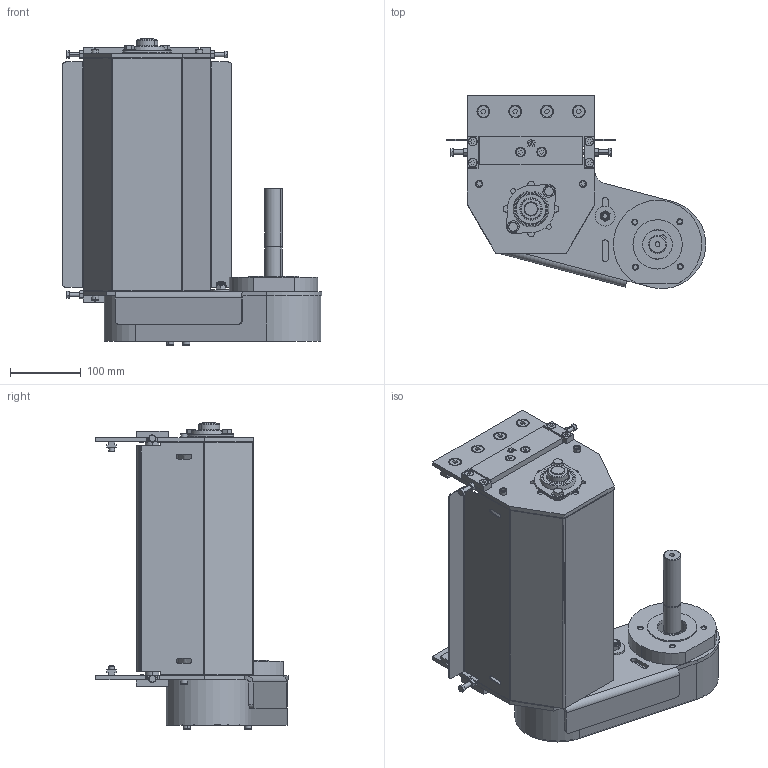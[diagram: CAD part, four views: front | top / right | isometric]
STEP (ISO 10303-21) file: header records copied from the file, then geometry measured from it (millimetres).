
FILE_DESCRIPTION (( 'STEP AP203' ), '1' );
FILE_NAME ('084.050.KCRS.49.STEP', '2018-03-12T15:15:10', ( '' ), ( '' ), 'SwSTEP 2.0', 'SolidWorks 2016', '' );
FILE_SCHEMA (( 'CONFIG_CONTROL_DESIGN' ));
Length unit declared in the file: millimetre
Products named in the file (1): 084.050.KCRS.49
Bounding box: 367.24 x 272.33 x 434 mm (x, y, z)
Surface area: 985167.5 mm2 (no closed solid volume)
Topology: 0 solids, 89 shells, 898 faces, 2746 edges, 1918 vertices
Faces by surface type: plane 487, cylinder 221, cone 166, torus 20, sphere 4
Entity records: 31137 total; most frequent: CARTESIAN_POINT 6319, DIRECTION 5316, ORIENTED_EDGE 4480, EDGE_CURVE 2742, VERTEX_POINT 1916, AXIS2_PLACEMENT_3D 1851, LINE 1614, VECTOR 1614
